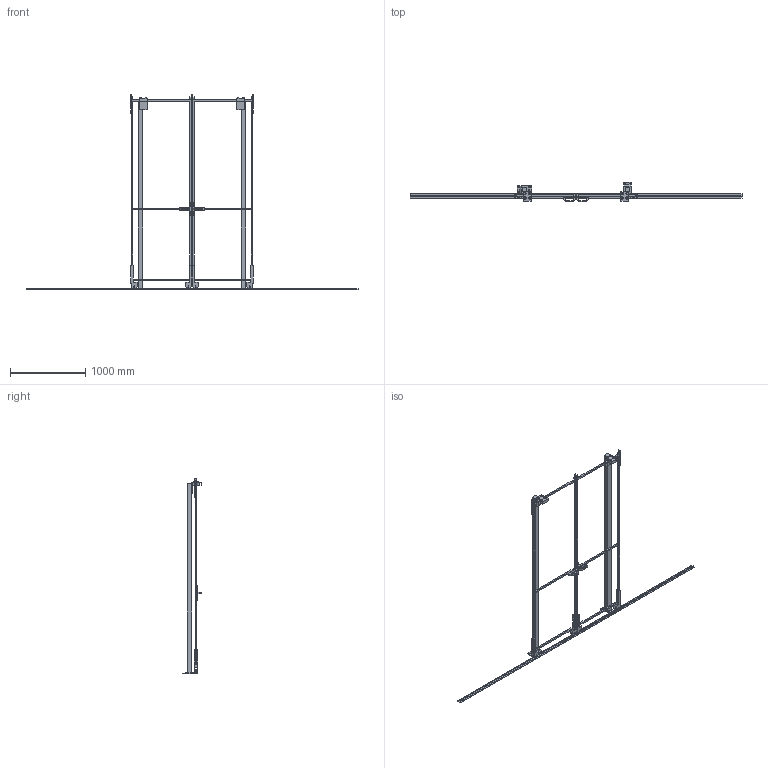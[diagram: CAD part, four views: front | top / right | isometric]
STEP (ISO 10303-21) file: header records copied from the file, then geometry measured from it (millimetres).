
FILE_DESCRIPTION(/* description */ (''),/* implementation_level */ '2;1');
FILE_NAME(/* name */ 'C:\SafeGuarding\ELABORATI\Drawing4_2025-05-14-13-49-33.stp',/* time_stamp */ '2025-05-14T13:49:38+02:00',/* author */ ('admin'),/* organization */ (''),/* preprocessor_version */ 'ST-DEVELOPER v18.1',/* originating_system */ 'AutoCAD Mechanical',/* authorisation */ '');
FILE_SCHEMA (('AUTOMOTIVE_DESIGN { 1 0 10303 214 3 1 1 }'));
Length unit declared in the file: millimetre
Products named in the file (3): Product; VFPA.REPE2008002400; P_VFMA.V260SDU.2520
Assembly tree (4 placements, depth 2):
  Product
    VFPA.REPE2008002400  x2
    P_VFMA.V260SDU.2520  x2
Bounding box: 4400 x 257.4 x 2590 mm (x, y, z)
Volume: 26806517.8 mm3; surface area: 3772071.8 mm2
Topology: 44 solids, 66 shells, 472 faces, 1494 edges, 1348 vertices
Faces by surface type: plane 408, cylinder 56, cone 8
Full cylindrical faces by diameter (mm): 9 x8, 11 x8, 13 x8, 14 x4, 18 x8, 30 x4, 36 x8, 58 x8
Entity records: 14849 total; most frequent: CARTESIAN_POINT 3113, DIRECTION 2240, ORIENTED_EDGE 2176, EDGE_CURVE 1186, LINE 962, VECTOR 962, VERTEX_POINT 872, AXIS2_PLACEMENT_3D 639
